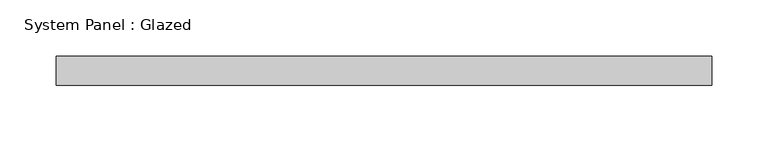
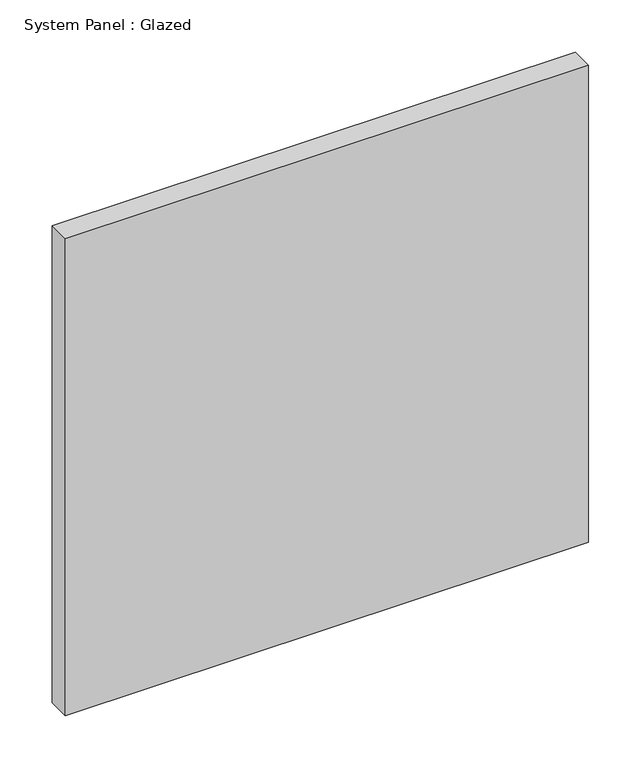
"""IFC4 building model written with IfcOpenShell, lengths in millimetres: plate geometry, System Panel : Glazed."""

from ifc_helpers import new_model, si_unit, origin, origin_with_axes, place, context, project, spatial, polyline, outline, extrude, source, transform, mapped, element, save


def system_panel_glazed_114676b6(model_context):
    return source(origin(), model_context, "Body", "SweptSolid", [
        extrude(outline(polyline([(289.9824409, -12.7), (-289.9824409, -12.7), (-289.9824409, 12.7), (289.9824409, 12.7), (289.9824409, -12.7)])), origin_with_axes(), (0.0, 0.0, 1.0), 558.8),
    ])


if __name__ == "__main__":
    model = new_model("IFC4")
    model_context = context("Model", 3, world=origin())
    ifc_project = project(units=[si_unit("LENGTHUNIT", "METRE", prefix="MILLI")], contexts=[model_context])
    site = spatial("IfcSite", under=ifc_project)
    building = spatial("IfcBuilding", under=site)
    placement = place(None, origin())
    system_panel_glazed_shape = system_panel_glazed_114676b6(model_context)
    element("IfcPlate", 1, ObjectType="System Panel : Glazed", at=placement, inside=building, context=model_context, shape_type="MappedRepresentation", body=[
        mapped(system_panel_glazed_shape, transform((0.0, 0.0, 0.0), x_axis=(1.0, 0.0, 0.0), y_axis=(0.0, 1.0, 0.0), z_axis=(0.0, 0.0, 1.0))),
    ])
    save(model, "model.ifc")
